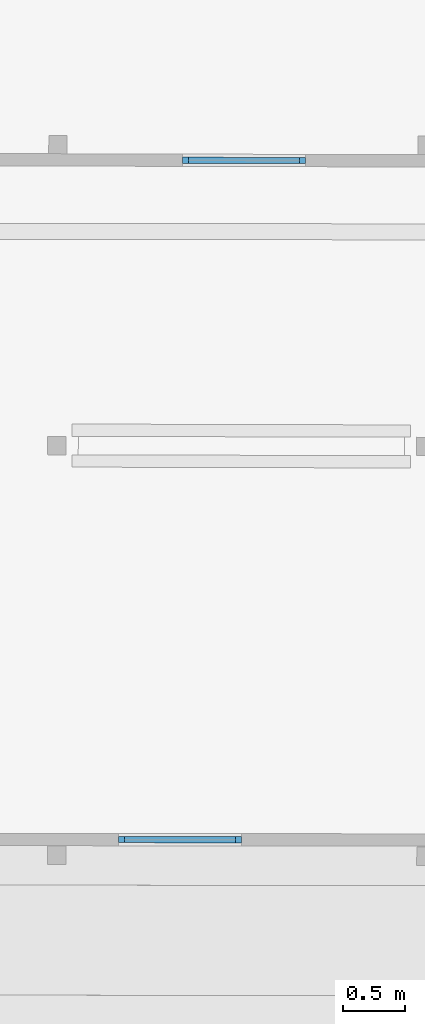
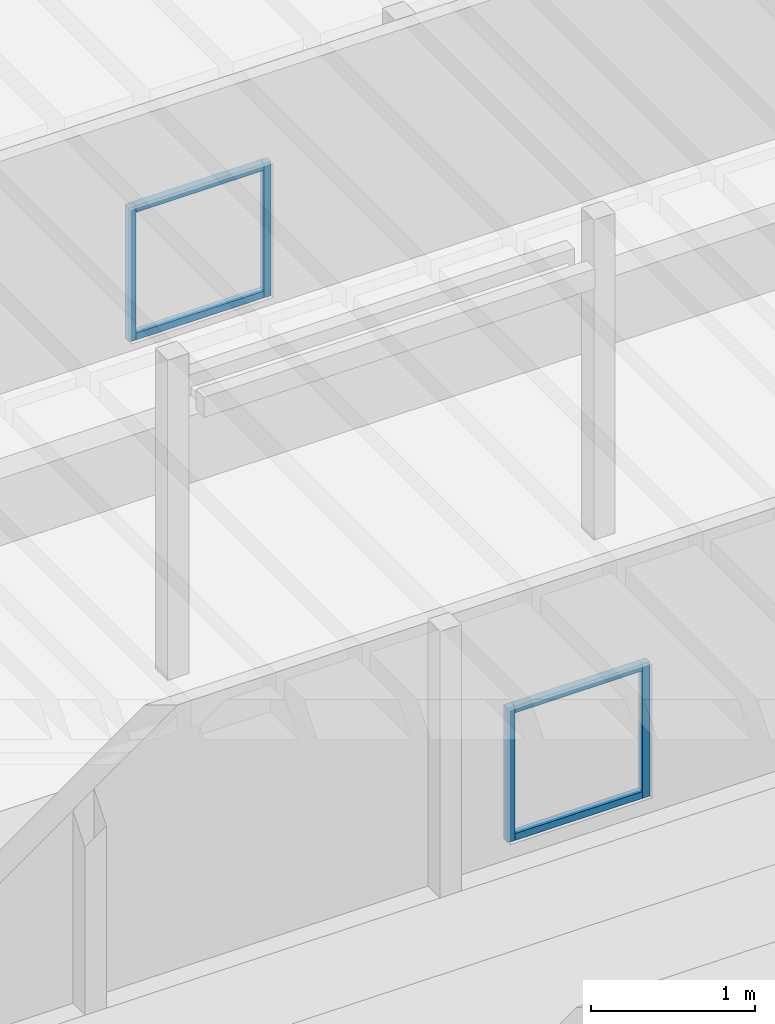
# One storey, part 2 of 24: 8 members, 2 elements without a shape of their own.
"""IFC2X3 building model written with IfcOpenShell, lengths in metres."""

from ifc_helpers import new_model, entity, si_unit, converted_unit, derived_unit, direction, frame, origin, origin_2d_with_axis, place, context, subcontext, project, spatial, rectangle, extrude, source, transform, mapped, material, type_object, type_shapes, element, aggregate, save


model = new_model("IFC2X3")

# Units and contexts
model_context = context("Model", 3, precision=1e-05, world=origin(), true_north=direction((6.123233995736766e-17, 1.0)))
body_context = subcontext(model_context, "Body", "Model", "MODEL_VIEW")
ifc_project = project(units=[si_unit("LENGTHUNIT", "METRE"), si_unit("AREAUNIT", "SQUARE_METRE"), converted_unit("PLANEANGLEUNIT", "DEGREE", entity("IfcPlaneAngleMeasure", 0.017453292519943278), si_unit("PLANEANGLEUNIT", "RADIAN"), dimensions=[0, 0, 0, 0, 0, 0, 0]), derived_unit("THERMALTRANSMITTANCEUNIT", [(si_unit("MASSUNIT", "GRAM", prefix="KILO"), 1), (si_unit("THERMODYNAMICTEMPERATUREUNIT", "KELVIN"), -1), (si_unit("TIMEUNIT", "SECOND"), -3)])], contexts=[model_context])

# Site, building, storey
site_placement = place(None, frame((1253.6752467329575, 2072.143113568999, 91.49999999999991), z_axis=(0.0, 0.0, 1.0), x_axis=(0.7237211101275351, 0.6900925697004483, 0.0)))
site = spatial("IfcSite", under=ifc_project, at=site_placement, Name="Surface", CompositionType="ELEMENT")
building_placement = place(site_placement, origin())
building = spatial("IfcBuilding", under=site, at=building_placement, CompositionType="ELEMENT")
storey_placement = place(building_placement, frame((0.0, 0.0, -7.049999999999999)))
storey = spatial("IfcBuildingStorey", under=building, at=storey_placement, Name="R-1", CompositionType="ELEMENT", Elevation=-7.049999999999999)

# Curtain wall, member
curtain_wall_type = type_object("IfcCurtainWallType", Name="Mur-rideau:Trappe", PredefinedType="NOTDEFINED")
curtain_wall_1_placement = place(storey_placement, frame((0.0, 0.0, 7.049999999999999)))
curtain_wall_1 = element("IfcCurtainWall", 1, at=curtain_wall_1_placement, inside=storey, type_object=curtain_wall_type, Name="Mur-rideau:Trappe", ObjectType="Mur-rideau:Trappe")
ifc_material = material(Name="OMD_Bois Men Int")
member_type_1 = type_object("IfcMemberType", Name="Meneau rectangulaire:50x50 Int", PredefinedType="MULLION", material=ifc_material)
shared_shape_1 = source(origin(), body_context, "Body", "SweptSolid", [
    extrude(rectangle(XDim=0.05, YDim=0.05, at=origin_2d_with_axis()), frame((-0.025, 0.0, -0.8999999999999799), z_axis=(0.0, 0.0, 1.0), x_axis=(-1.0, 0.0, 0.0)), (0.0, 0.0, 1.0), 0.9000000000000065),
])
type_shapes(member_type_1, [shared_shape_1])
member_1_placement = place(curtain_wall_1_placement, frame((179.46610034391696, 8.147392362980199, -5.349999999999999), z_axis=(0.7219211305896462, -0.691975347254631, 0.0), x_axis=(0.0, 0.0, 1.0)))
member_1 = element("IfcMember", 2, at=member_1_placement, type_object=member_type_1, material=ifc_material, Name="Meneau rectangulaire:50x50 Int", ObjectType="Meneau rectangulaire:50x50 Int", context=body_context, shape_type="MappedRepresentation", body=[
    mapped(shared_shape_1, transform((0.0, 0.0, 0.0), scale=1.0)),
])

curtain_wall_2_placement = place(storey_placement, frame((0.0, 0.0, 7.049999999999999)))
curtain_wall_2 = element("IfcCurtainWall", 3, at=curtain_wall_2_placement, inside=storey, type_object=curtain_wall_type, Name="Mur-rideau:Trappe", ObjectType="Mur-rideau:Trappe")
member_2_placement = place(curtain_wall_2_placement, frame((175.2819818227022, 4.511075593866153, -5.549999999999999), z_axis=(0.7228702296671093, -0.6909838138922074, 0.0), x_axis=(0.0, 0.0, 1.0)))
member_2 = element("IfcMember", 4, at=member_2_placement, type_object=member_type_1, material=ifc_material, Name="Meneau rectangulaire:50x50 Int", ObjectType="Meneau rectangulaire:50x50 Int", context=body_context, shape_type="MappedRepresentation", body=[
    mapped(shared_shape_1, transform((0.0, 0.0, 0.0), scale=1.0)),
])

# Member
member_type_2 = type_object("IfcMemberType", Name="Meneau rectangulaire:50x50 Int", PredefinedType="MULLION", material=ifc_material)
shared_shape_2 = source(origin(), body_context, "Body", "SweptSolid", [
    extrude(rectangle(XDim=0.05, YDim=0.05, at=origin_2d_with_axis()), frame((-0.025, 0.0, -0.8999999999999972), z_axis=(0.0, 0.0, 1.0), x_axis=(-1.0, 0.0, 0.0)), (0.0, 0.0, 1.0), 0.9000000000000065),
])
type_shapes(member_type_2, [shared_shape_2])
member_3_placement = place(curtain_wall_1_placement, frame((178.81637132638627, 8.770170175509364, -6.349999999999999), z_axis=(-0.7219211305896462, 0.691975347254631, 0.0), x_axis=(0.0, 0.0, -1.0)))
member_3 = element("IfcMember", 5, at=member_3_placement, type_object=member_type_2, material=ifc_material, Name="Meneau rectangulaire:50x50 Int", ObjectType="Meneau rectangulaire:50x50 Int", context=body_context, shape_type="MappedRepresentation", body=[
    mapped(shared_shape_2, transform((0.0, 0.0, 0.0), scale=1.0)),
])

member_4_placement = place(curtain_wall_2_placement, frame((174.63139861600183, 5.132961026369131, -6.549999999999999), z_axis=(-0.7228702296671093, 0.6909838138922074, 0.0), x_axis=(0.0, 0.0, -1.0)))
member_4 = element("IfcMember", 6, at=member_4_placement, type_object=member_type_2, material=ifc_material, Name="Meneau rectangulaire:50x50 Int", ObjectType="Meneau rectangulaire:50x50 Int", context=body_context, shape_type="MappedRepresentation", body=[
    mapped(shared_shape_2, transform((0.0, 0.0, 0.0), scale=1.0)),
])

member_type_3 = type_object("IfcMemberType", Name="Meneau rectangulaire:50x50 Int", PredefinedType="MULLION", material=ifc_material)
shared_shape_3 = source(origin(), body_context, "Body", "SweptSolid", [
    extrude(rectangle(XDim=0.05, YDim=0.049999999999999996, at=origin_2d_with_axis()), frame((-0.025, 0.0, -1.0), z_axis=(0.0, 0.0, 1.0), x_axis=(-1.0, 0.0, 0.0)), (0.0, 0.0, 1.0), 1.0),
])
type_shapes(member_type_3, [shared_shape_3])
member_5_placement = place(curtain_wall_1_placement, frame((179.50219640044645, 8.112793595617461, -6.349999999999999), z_axis=(0.0, 0.0, -1.0), x_axis=(0.7219211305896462, -0.691975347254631, 0.0)))
member_5 = element("IfcMember", 7, at=member_5_placement, type_object=member_type_3, material=ifc_material, Name="Meneau rectangulaire:50x50 Int", ObjectType="Meneau rectangulaire:50x50 Int", context=body_context, shape_type="MappedRepresentation", body=[
    mapped(shared_shape_3, transform((0.0, 0.0, 0.0), scale=1.0)),
])

member_6_placement = place(curtain_wall_2_placement, frame((175.31812533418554, 4.476526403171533, -6.549999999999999), z_axis=(0.0, 0.0, -1.0), x_axis=(0.7228702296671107, -0.690983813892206, 0.0)))
member_6 = element("IfcMember", 8, at=member_6_placement, type_object=member_type_3, material=ifc_material, Name="Meneau rectangulaire:50x50 Int", ObjectType="Meneau rectangulaire:50x50 Int", context=body_context, shape_type="MappedRepresentation", body=[
    mapped(shared_shape_3, transform((0.0, 0.0, 0.0), scale=1.0)),
])

member_type_4 = type_object("IfcMemberType", Name="Meneau rectangulaire:50x50 Int", PredefinedType="MULLION", material=ifc_material)
shared_shape_4 = source(origin(), body_context, "Body", "SweptSolid", [
    extrude(rectangle(XDim=0.05, YDim=0.05, at=origin_2d_with_axis()), frame((-0.025, 0.0, -1.0), z_axis=(0.0, 0.0, 1.0), x_axis=(-1.0, 0.0, 0.0)), (0.0, 0.0, 1.0), 1.0),
])
type_shapes(member_type_4, [shared_shape_4])
member_7_placement = place(curtain_wall_1_placement, frame((178.78027526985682, 8.804768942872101, -5.349999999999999), z_axis=(0.0, 0.0, 1.0), x_axis=(-0.7219211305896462, 0.691975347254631, 0.0)))
member_7 = element("IfcMember", 9, at=member_7_placement, type_object=member_type_4, material=ifc_material, Name="Meneau rectangulaire:50x50 Int", ObjectType="Meneau rectangulaire:50x50 Int", context=body_context, shape_type="MappedRepresentation", body=[
    mapped(shared_shape_4, transform((0.0, 0.0, 0.0), scale=1.0)),
])

aggregate(curtain_wall_1, [member_1, member_3, member_5, member_7])

member_8_placement = place(curtain_wall_2_placement, frame((174.59525510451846, 5.167510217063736, -5.549999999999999), z_axis=(0.0, 0.0, 1.0), x_axis=(-0.7228702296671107, 0.690983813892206, 0.0)))
member_8 = element("IfcMember", 10, at=member_8_placement, type_object=member_type_4, material=ifc_material, Name="Meneau rectangulaire:50x50 Int", ObjectType="Meneau rectangulaire:50x50 Int", context=body_context, shape_type="MappedRepresentation", body=[
    mapped(shared_shape_4, transform((0.0, 0.0, 0.0), scale=1.0)),
])

aggregate(curtain_wall_2, [member_2, member_4, member_6, member_8])

save(model, "model.ifc")
